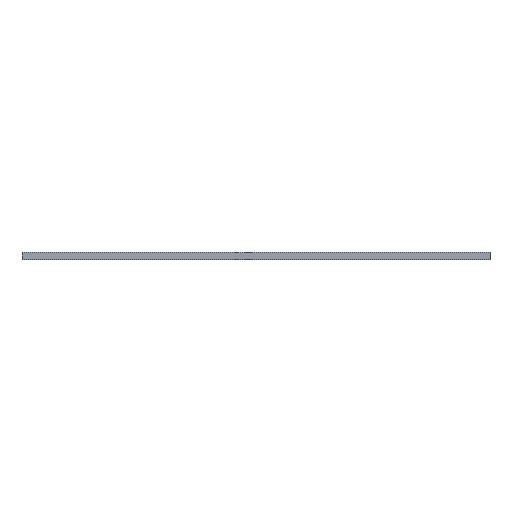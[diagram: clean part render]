
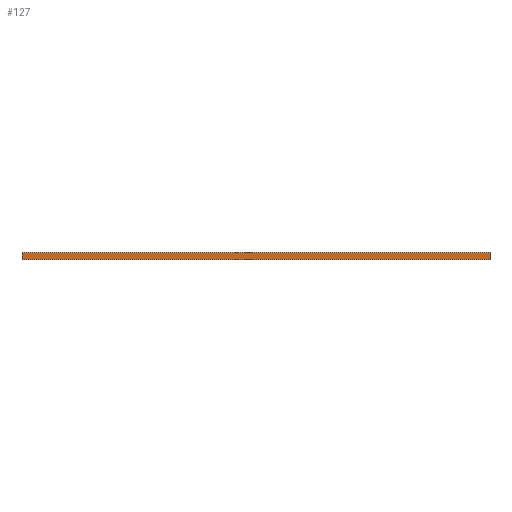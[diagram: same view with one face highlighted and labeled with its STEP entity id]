
A CAD part, front view. The second image highlights one B-rep face of the part: STEP entity #127.
In plain terms, the highlighted planar face has unit normal (0, -1, 0).
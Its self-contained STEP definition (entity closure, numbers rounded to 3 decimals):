
#127=ADVANCED_FACE('',(#266),#267,.T.);
#266=FACE_OUTER_BOUND('',#438,.T.);
#267=PLANE('',#439);
#438=EDGE_LOOP('',(#870,#871,#872,#873));
#439=AXIS2_PLACEMENT_3D('',#874,#875,#876);
#870=ORIENTED_EDGE('',*,*,#1425,.T.);
#871=ORIENTED_EDGE('',*,*,#1426,.F.);
#872=ORIENTED_EDGE('',*,*,#1427,.T.);
#873=ORIENTED_EDGE('',*,*,#1423,.T.);
#874=CARTESIAN_POINT('',(0.0,-5.,-12.7));
#875=DIRECTION('',(0.0,-1.0,0.0));
#876=DIRECTION('',(0.0,0.0,-1.0));
#1423=EDGE_CURVE('',#1780,#1778,#1781,.T.);
#1425=EDGE_CURVE('',#1778,#1783,#1784,.T.);
#1426=EDGE_CURVE('',#1785,#1783,#1786,.T.);
#1427=EDGE_CURVE('',#1785,#1780,#1787,.T.);
#1778=VERTEX_POINT('',#2346);
#1780=VERTEX_POINT('',#2348);
#1781=LINE('',#2349,#2350);
#1783=VERTEX_POINT('',#2352);
#1784=LINE('',#2353,#2354);
#1785=VERTEX_POINT('',#2355);
#1786=LINE('',#2356,#2357);
#1787=LINE('',#2358,#2359);
#2346=CARTESIAN_POINT('',(1000.0,-5.,-12.7));
#2348=CARTESIAN_POINT('',(0.0,-5.,-12.7));
#2349=CARTESIAN_POINT('',(0.0,-5.,-12.7));
#2350=VECTOR('',#2759,1.0);
#2352=CARTESIAN_POINT('',(1000.0,-5.,1.7));
#2353=CARTESIAN_POINT('',(1000.0,-5.,1.7));
#2354=VECTOR('',#2763,1.0);
#2355=CARTESIAN_POINT('',(0.0,-5.,1.7));
#2356=CARTESIAN_POINT('',(0.0,-5.,1.7));
#2357=VECTOR('',#2764,1.0);
#2358=CARTESIAN_POINT('',(0.0,-5.,1.7));
#2359=VECTOR('',#2765,1.0);
#2759=DIRECTION('',(1.0,0.0,0.0));
#2763=DIRECTION('',(0.0,0.0,1.0));
#2764=DIRECTION('',(1.0,0.0,0.0));
#2765=DIRECTION('',(0.0,0.0,-1.0));
